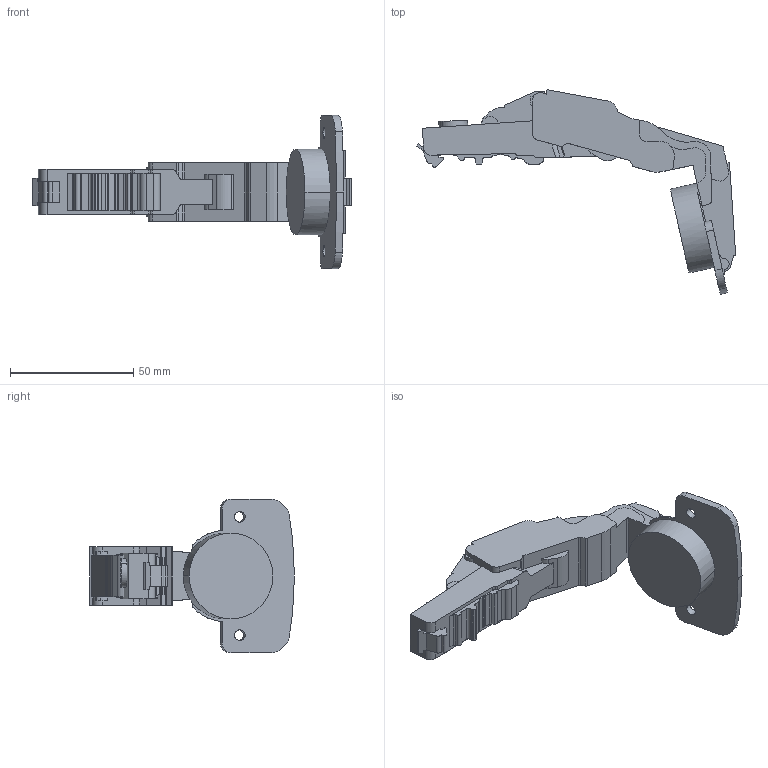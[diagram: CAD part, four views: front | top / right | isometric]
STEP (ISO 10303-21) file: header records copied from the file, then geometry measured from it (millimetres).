
FILE_DESCRIPTION (( 'STEP AP203' ), '1' );
FILE_NAME ('C82A606FA-DTC 3D open.STEP', '2024-05-03T01:10:32', ( '微软用户' ), ( '微软中国' ), 'SwSTEP 2.0', 'SolidWorks 2021', '' );
FILE_SCHEMA (( 'CONFIG_CONTROL_DESIGN' ));
Length unit declared in the file: millimetre
Products named in the file (1): C82A606FA-DTC 3D open
Bounding box: 129.45 x 82.9 x 62.2 mm (x, y, z)
Volume: 68048.8 mm3; surface area: 18178 mm2
Topology: 1 solids, 1 shells, 257 faces, 766 edges, 512 vertices
Faces by surface type: plane 128, cylinder 123, bspline 6
Entity records: 8950 total; most frequent: CARTESIAN_POINT 1804, ORIENTED_EDGE 1532, DIRECTION 1484, EDGE_CURVE 766, VERTEX_POINT 512, AXIS2_PLACEMENT_3D 500, LINE 484, VECTOR 484
